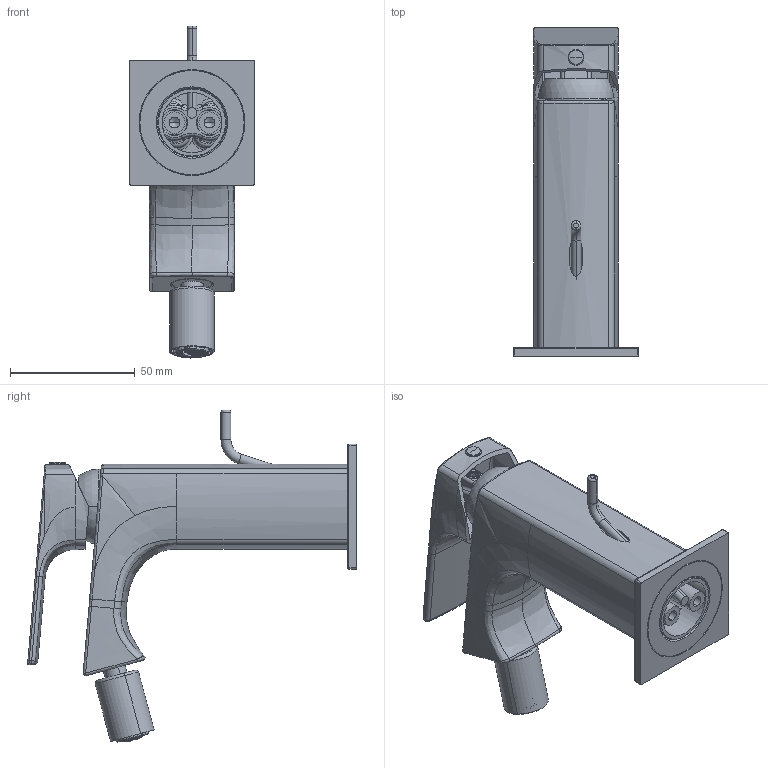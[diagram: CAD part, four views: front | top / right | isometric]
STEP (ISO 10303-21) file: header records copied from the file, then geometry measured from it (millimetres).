
FILE_DESCRIPTION((''),'2;1');
FILE_NAME('75103_SW0001','2024-10-07T10:01:23',('volponeff'),(''),'CREO PARAMETRIC BY PTC INC, 2022014','CREO PARAMETRIC BY PTC INC, 2022014','');
FILE_SCHEMA(('CONFIG_CONTROL_DESIGN'));
Length unit declared in the file: millimetre
Products named in the file (1): 75103_SW0001
Bounding box: 50 x 131.54 x 132.85 mm (x, y, z)
Volume: 101951.8 mm3; surface area: 71396.6 mm2
Topology: 3 solids, 3 shells, 3798 faces, 10695 edges, 6894 vertices
Faces by surface type: plane 2020, cylinder 665, torus 520, bspline 378, sphere 111, cone 101, extrusion 3
Entity records: 175960 total; most frequent: CARTESIAN_POINT 85511, ORIENTED_EDGE 21224, DIRECTION 15626, EDGE_CURVE 10612, VERTEX_POINT 6894, AXIS2_PLACEMENT_3D 5977, B_SPLINE_CURVE_WITH_KNOTS 4386, EDGE_LOOP 4200
